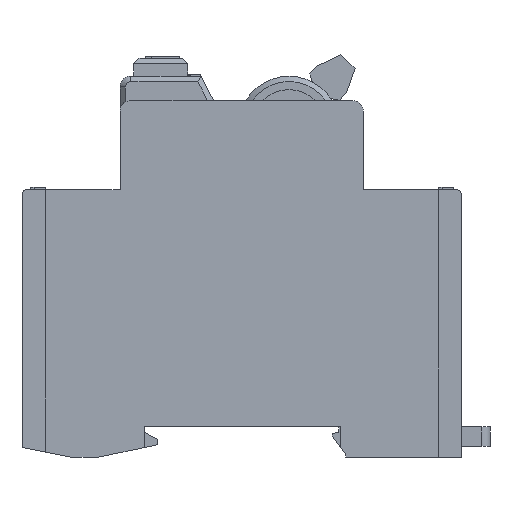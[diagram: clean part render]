
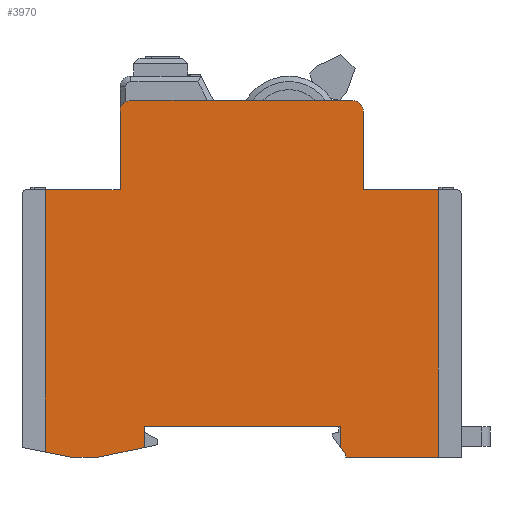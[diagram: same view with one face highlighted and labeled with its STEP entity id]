
A CAD part, left-side view. The second image highlights one B-rep face of the part: STEP entity #3970.
In plain terms, the highlighted planar face has unit normal (-1, 0, 0).
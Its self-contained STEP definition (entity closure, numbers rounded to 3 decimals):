
#740 = LINE ( 'NONE', #742, #9619 ) ;
#742 = CARTESIAN_POINT ( 'NONE',  ( -36., -19.3, -32.5 ) ) ;
#744 = DIRECTION ( 'NONE',  ( 0., 0., -1. ) ) ;
#746 = LINE ( 'NONE', #748, #9614 ) ;
#748 = CARTESIAN_POINT ( 'NONE',  ( -36., -16.8, -29.1 ) ) ;
#750 = DIRECTION ( 'NONE',  ( 0., -0.592, -0.806 ) ) ;
#752 = LINE ( 'NONE', #754, #9610 ) ;
#754 = CARTESIAN_POINT ( 'NONE',  ( -36., -18.3, -62.788 ) ) ;
#756 = DIRECTION ( 'NONE',  ( 0., 0., 1. ) ) ;
#758 = LINE ( 'NONE', #760, #9607 ) ;
#760 = CARTESIAN_POINT ( 'NONE',  ( -36., 18., -27.4 ) ) ;
#762 = DIRECTION ( 'NONE',  ( 0., -1., 0. ) ) ;
#764 = LINE ( 'NONE', #766, #9604 ) ;
#766 = CARTESIAN_POINT ( 'NONE',  ( -36., 18., -28.4 ) ) ;
#768 = DIRECTION ( 'NONE',  ( 0., 0., 1. ) ) ;
#770 = LINE ( 'NONE', #772, #9599 ) ;
#772 = CARTESIAN_POINT ( 'NONE',  ( -36., 26.5, -33. ) ) ;
#774 = DIRECTION ( 'NONE',  ( 0., -0.979, 0.205 ) ) ;
#776 = LINE ( 'NONE', #778, #9754 ) ;
#778 = CARTESIAN_POINT ( 'NONE',  ( -36., -40.65, -33. ) ) ;
#780 = DIRECTION ( 'NONE',  ( 0., 1., 0. ) ) ;
#782 = LINE ( 'NONE', #784, #9595 ) ;
#784 = CARTESIAN_POINT ( 'NONE',  ( -36., 31.65, -33. ) ) ;
#786 = DIRECTION ( 'NONE',  ( 0., -0.981, -0.196 ) ) ;
#2486 = CARTESIAN_POINT ( 'NONE',  ( -36., 20.5, 31. ) ) ;
#2496 = LINE ( 'NONE', #2497, #10448 ) ;
#2497 = CARTESIAN_POINT ( 'NONE',  ( -36., 36.35, -33. ) ) ;
#2498 = DIRECTION ( 'NONE',  ( 0., 0., 1. ) ) ;
#2499 = LINE ( 'NONE', #2500, #10447 ) ;
#2500 = CARTESIAN_POINT ( 'NONE',  ( -36., 22.5, 16.5 ) ) ;
#2501 = DIRECTION ( 'NONE',  ( 0., 0., -1. ) ) ;
#2502 = DIRECTION ( 'NONE',  ( -1., 0., 0. ) ) ;
#2503 = DIRECTION ( 'NONE',  ( 0., 0., 1. ) ) ;
#2504 = CARTESIAN_POINT ( 'NONE',  ( -36., -20.5, 31. ) ) ;
#2505 = LINE ( 'NONE', #2506, #10445 ) ;
#2506 = CARTESIAN_POINT ( 'NONE',  ( -36., -40.65, 33. ) ) ;
#2507 = DIRECTION ( 'NONE',  ( 0., -1., 0. ) ) ;
#2508 = LINE ( 'NONE', #2509, #10443 ) ;
#2509 = CARTESIAN_POINT ( 'NONE',  ( -36., -22.5, 16.5 ) ) ;
#2510 = DIRECTION ( 'NONE',  ( 0., 0., -1. ) ) ;
#2511 = DIRECTION ( 'NONE',  ( -1., 0., 0. ) ) ;
#2512 = DIRECTION ( 'NONE',  ( 0., 0., 1. ) ) ;
#2529 = LINE ( 'NONE', #2530, #10437 ) ;
#2530 = CARTESIAN_POINT ( 'NONE',  ( -36., -36.35, -33. ) ) ;
#2531 = DIRECTION ( 'NONE',  ( 0., 0., 1. ) ) ;
#2532 = LINE ( 'NONE', #2533, #10436 ) ;
#2533 = CARTESIAN_POINT ( 'NONE',  ( -36., -40.65, -33. ) ) ;
#2534 = DIRECTION ( 'NONE',  ( 0., 1., 0. ) ) ;
#2694 = LINE ( 'NONE', #2695, #10366 ) ;
#2695 = CARTESIAN_POINT ( 'NONE',  ( -36., 40.65, 16.5 ) ) ;
#2696 = DIRECTION ( 'NONE',  ( 0., 1., 0. ) ) ;
#2781 = LINE ( 'NONE', #2782, #10319 ) ;
#2782 = CARTESIAN_POINT ( 'NONE',  ( -36., -40.65, 16.5 ) ) ;
#2783 = DIRECTION ( 'NONE',  ( 0., -1., 0. ) ) ;
#3970 = ADVANCED_FACE ( 'NONE', ( #9653 ), #17446, .T. ) ;
#7006 = CARTESIAN_POINT ( 'NONE',  ( -36., -22.5, 16.5 ) ) ;
#7007 = CARTESIAN_POINT ( 'NONE',  ( -36., -36.35, 16.5 ) ) ;
#7084 = CARTESIAN_POINT ( 'NONE',  ( -36., 36.35, 16.5 ) ) ;
#7085 = CARTESIAN_POINT ( 'NONE',  ( -36., 22.5, 16.5 ) ) ;
#7152 = CARTESIAN_POINT ( 'NONE',  ( -36., -22.5, 31. ) ) ;
#7153 = CARTESIAN_POINT ( 'NONE',  ( -36., -20.5, 33. ) ) ;
#7154 = CARTESIAN_POINT ( 'NONE',  ( -36., 20.5, 33. ) ) ;
#7155 = CARTESIAN_POINT ( 'NONE',  ( -36., 22.5, 31. ) ) ;
#7156 = CARTESIAN_POINT ( 'NONE',  ( -36., 36.35, -32.06 ) ) ;
#7157 = CARTESIAN_POINT ( 'NONE',  ( -36., 31.65, -33. ) ) ;
#7158 = CARTESIAN_POINT ( 'NONE',  ( -36., 26.5, -33. ) ) ;
#7159 = CARTESIAN_POINT ( 'NONE',  ( -36., 18., -31.223 ) ) ;
#7160 = CARTESIAN_POINT ( 'NONE',  ( -36., 18., -27.4 ) ) ;
#7161 = CARTESIAN_POINT ( 'NONE',  ( -36., -18.3, -27.4 ) ) ;
#7162 = CARTESIAN_POINT ( 'NONE',  ( -36., -18.3, -31.14 ) ) ;
#7163 = CARTESIAN_POINT ( 'NONE',  ( -36., -19.3, -32.5 ) ) ;
#7164 = CARTESIAN_POINT ( 'NONE',  ( -36., -19.3, -33. ) ) ;
#7165 = CARTESIAN_POINT ( 'NONE',  ( -36., -36.35, -33. ) ) ;
#7647 = ORIENTED_EDGE ( 'NONE', *, *, #11762, .T. ) ;
#7648 = ORIENTED_EDGE ( 'NONE', *, *, #11760, .T. ) ;
#7649 = ORIENTED_EDGE ( 'NONE', *, *, #11759, .T. ) ;
#7650 = ORIENTED_EDGE ( 'NONE', *, *, #11758, .T. ) ;
#7651 = ORIENTED_EDGE ( 'NONE', *, *, #11757, .F. ) ;
#7652 = ORIENTED_EDGE ( 'NONE', *, *, #11756, .T. ) ;
#7653 = ORIENTED_EDGE ( 'NONE', *, *, #11755, .T. ) ;
#7654 = ORIENTED_EDGE ( 'NONE', *, *, #11887, .F. ) ;
#7700 = EDGE_LOOP ( 'NONE', ( #14168, #14170, #14169, #14172, #14174, #14175, #14177, #7647, #14178, #7648, #7649, #7650, #7651, #7652, #7653, #7654, #14157, #14158 ) ) ;
#9595 = VECTOR ( 'NONE', #786, 1000. ) ;
#9599 = VECTOR ( 'NONE', #774, 1000. ) ;
#9604 = VECTOR ( 'NONE', #768, 1000. ) ;
#9607 = VECTOR ( 'NONE', #762, 1000. ) ;
#9610 = VECTOR ( 'NONE', #756, 1000. ) ;
#9614 = VECTOR ( 'NONE', #750, 1000. ) ;
#9619 = VECTOR ( 'NONE', #744, 1000. ) ;
#9653 = FACE_OUTER_BOUND ( 'NONE', #7700, .T. ) ;
#9658 = AXIS2_PLACEMENT_3D ( 'NONE', #17447, #17448, #17449 ) ;
#9754 = VECTOR ( 'NONE', #780, 1000. ) ;
#10319 = VECTOR ( 'NONE', #2783, 1000. ) ;
#10366 = VECTOR ( 'NONE', #2696, 1000. ) ;
#10436 = VECTOR ( 'NONE', #2534, 1000. ) ;
#10437 = VECTOR ( 'NONE', #2531, 1000. ) ;
#10443 = VECTOR ( 'NONE', #2510, 1000. ) ;
#10445 = VECTOR ( 'NONE', #2507, 1000. ) ;
#10446 = AXIS2_PLACEMENT_3D ( 'NONE', #2504, #2511, #2512 ) ;
#10447 = VECTOR ( 'NONE', #2501, 1000. ) ;
#10448 = VECTOR ( 'NONE', #2498, 1000. ) ;
#10452 = AXIS2_PLACEMENT_3D ( 'NONE', #2486, #2502, #2503 ) ;
#11384 = CIRCLE ( 'NONE', #10446, 2. ) ;
#11385 = CIRCLE ( 'NONE', #10452, 2. ) ;
#11755 = EDGE_CURVE ( 'NONE', #20238, #20239, #740, .T. ) ;
#11756 = EDGE_CURVE ( 'NONE', #20237, #20238, #746, .T. ) ;
#11757 = EDGE_CURVE ( 'NONE', #20237, #20236, #752, .T. ) ;
#11758 = EDGE_CURVE ( 'NONE', #20235, #20236, #758, .T. ) ;
#11759 = EDGE_CURVE ( 'NONE', #20234, #20235, #764, .T. ) ;
#11760 = EDGE_CURVE ( 'NONE', #20233, #20234, #770, .T. ) ;
#11761 = EDGE_CURVE ( 'NONE', #20233, #20232, #776, .T. ) ;
#11762 = EDGE_CURVE ( 'NONE', #20231, #20232, #782, .T. ) ;
#11875 = EDGE_CURVE ( 'NONE', #20231, #20159, #2496, .T. ) ;
#11876 = EDGE_CURVE ( 'NONE', #20230, #20160, #2499, .T. ) ;
#11877 = EDGE_CURVE ( 'NONE', #20229, #20230, #11385, .T. ) ;
#11878 = EDGE_CURVE ( 'NONE', #20229, #20228, #2505, .T. ) ;
#11879 = EDGE_CURVE ( 'NONE', #20227, #20081, #2508, .T. ) ;
#11880 = EDGE_CURVE ( 'NONE', #20227, #20228, #11384, .T. ) ;
#11886 = EDGE_CURVE ( 'NONE', #20240, #20082, #2529, .T. ) ;
#11887 = EDGE_CURVE ( 'NONE', #20240, #20239, #2532, .T. ) ;
#11941 = EDGE_CURVE ( 'NONE', #20160, #20159, #2694, .T. ) ;
#11970 = EDGE_CURVE ( 'NONE', #20081, #20082, #2781, .T. ) ;
#14157 = ORIENTED_EDGE ( 'NONE', *, *, #11886, .T. ) ;
#14158 = ORIENTED_EDGE ( 'NONE', *, *, #11970, .F. ) ;
#14168 = ORIENTED_EDGE ( 'NONE', *, *, #11879, .F. ) ;
#14169 = ORIENTED_EDGE ( 'NONE', *, *, #11878, .F. ) ;
#14170 = ORIENTED_EDGE ( 'NONE', *, *, #11880, .T. ) ;
#14172 = ORIENTED_EDGE ( 'NONE', *, *, #11877, .T. ) ;
#14174 = ORIENTED_EDGE ( 'NONE', *, *, #11876, .T. ) ;
#14175 = ORIENTED_EDGE ( 'NONE', *, *, #11941, .T. ) ;
#14177 = ORIENTED_EDGE ( 'NONE', *, *, #11875, .F. ) ;
#14178 = ORIENTED_EDGE ( 'NONE', *, *, #11761, .F. ) ;
#17446 = PLANE ( 'NONE',  #9658 ) ;
#17447 = CARTESIAN_POINT ( 'NONE',  ( -36., 0., 0. ) ) ;
#17448 = DIRECTION ( 'NONE',  ( -1., 0., 0. ) ) ;
#17449 = DIRECTION ( 'NONE',  ( 0., 0., 1. ) ) ;
#20081 = VERTEX_POINT ( 'NONE', #7006 ) ;
#20082 = VERTEX_POINT ( 'NONE', #7007 ) ;
#20159 = VERTEX_POINT ( 'NONE', #7084 ) ;
#20160 = VERTEX_POINT ( 'NONE', #7085 ) ;
#20227 = VERTEX_POINT ( 'NONE', #7152 ) ;
#20228 = VERTEX_POINT ( 'NONE', #7153 ) ;
#20229 = VERTEX_POINT ( 'NONE', #7154 ) ;
#20230 = VERTEX_POINT ( 'NONE', #7155 ) ;
#20231 = VERTEX_POINT ( 'NONE', #7156 ) ;
#20232 = VERTEX_POINT ( 'NONE', #7157 ) ;
#20233 = VERTEX_POINT ( 'NONE', #7158 ) ;
#20234 = VERTEX_POINT ( 'NONE', #7159 ) ;
#20235 = VERTEX_POINT ( 'NONE', #7160 ) ;
#20236 = VERTEX_POINT ( 'NONE', #7161 ) ;
#20237 = VERTEX_POINT ( 'NONE', #7162 ) ;
#20238 = VERTEX_POINT ( 'NONE', #7163 ) ;
#20239 = VERTEX_POINT ( 'NONE', #7164 ) ;
#20240 = VERTEX_POINT ( 'NONE', #7165 ) ;
